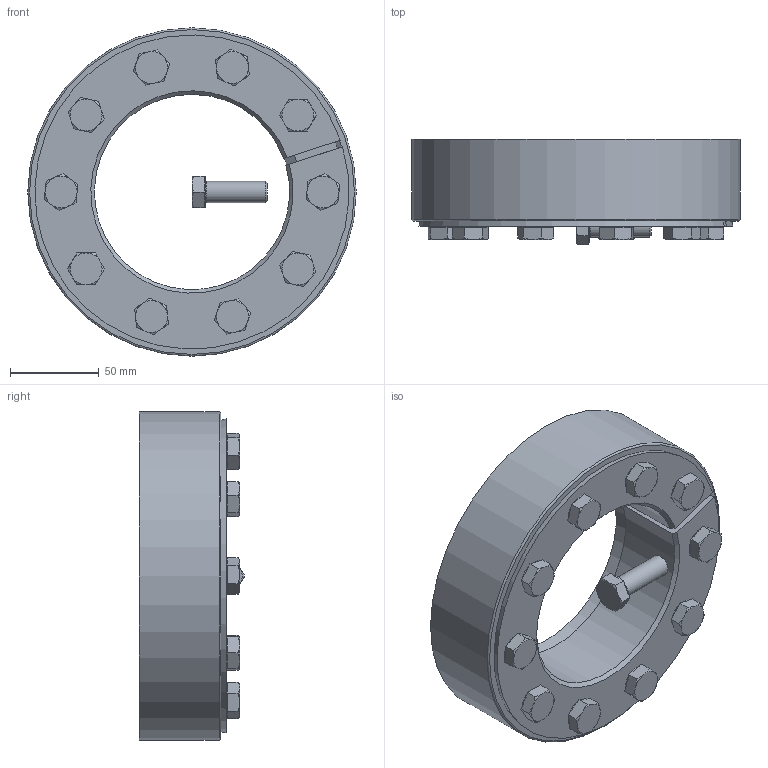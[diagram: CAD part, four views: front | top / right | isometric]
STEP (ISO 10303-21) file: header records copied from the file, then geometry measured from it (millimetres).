
FILE_DESCRIPTION( ( 'Unknown' ), '1' );
FILE_NAME( 'C:/Dokumente und Einstellungen/Sven/Desktop/homepage/cad - homepage/KBS19-1/KBS 19_1 - 110 x 185.stp', 'Unknown', ( 'Unknown' ), ( 'Unknown' ), 'XStep 1.0', 'Unknown', ' ' );
FILE_SCHEMA( ( 'automotive_design' ) );
Length unit declared in the file: millimetre
Products named in the file (3): Assem1; KBS 19_1 - 110 x 185; ISO 4017 - M12 x 35-N
Bounding box: 185 x 59.39 x 185 mm (x, y, z)
Volume: 1630498.6 mm3; surface area: 220804.4 mm2
Topology: 13 solids, 13 shells, 325 faces, 726 edges, 438 vertices
Faces by surface type: plane 183, cone 83, cylinder 46, torus 13
Full cylindrical faces by diameter (mm): 12 x31, 18 x11, 185 x2
Entity records: 1754 total; most frequent: CARTESIAN_POINT 317, DIRECTION 256, ORIENTED_EDGE 206, AXIS2_PLACEMENT_3D 109, EDGE_CURVE 103, EDGE_LOOP 89, VERTEX_POINT 74, FACE_OUTER_BOUND 65
